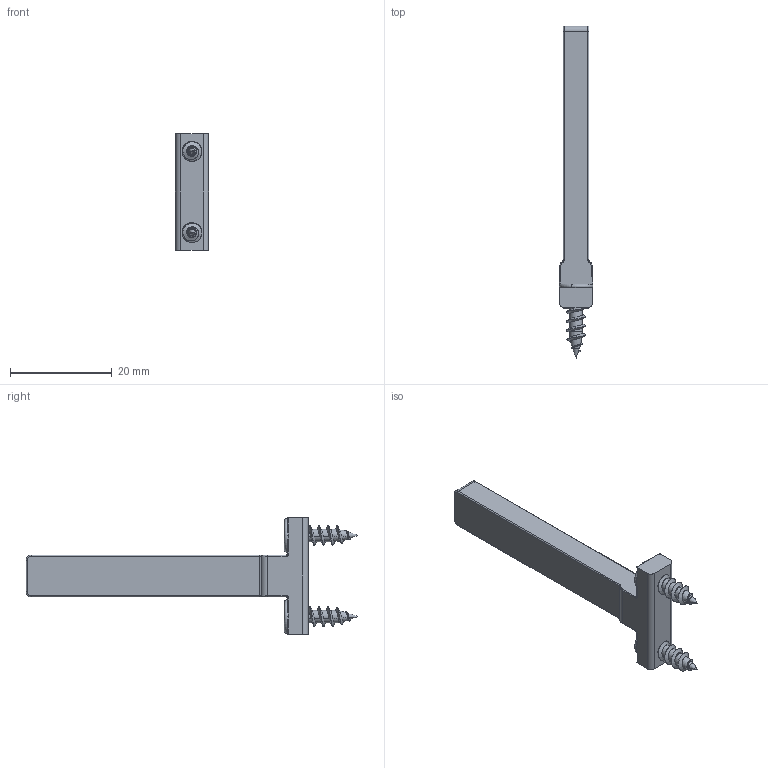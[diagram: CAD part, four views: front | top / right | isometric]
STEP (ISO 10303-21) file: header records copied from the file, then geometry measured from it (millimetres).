
FILE_DESCRIPTION (( 'STEP AP203' ), '1' );
FILE_NAME ('HT10011.STEP', '2021-03-30T07:20:00', ( 'Users' ), ( 'Microsoft' ), 'SwSTEP 2.0', 'SolidWorks 2018', '' );
FILE_SCHEMA (( 'CONFIG_CONTROL_DESIGN' ));
Length unit declared in the file: millimetre
Products named in the file (1): HT10011
Bounding box: 6.6 x 65.33 x 23 mm (x, y, z)
Volume: 2920.5 mm3; surface area: 2101.9 mm2
Topology: 1 solids, 1 shells, 161 faces, 428 edges, 269 vertices
Faces by surface type: cylinder 53, plane 47, bspline 29, torus 28, cone 4
Entity records: 8304 total; most frequent: CARTESIAN_POINT 4525, ORIENTED_EDGE 848, DIRECTION 678, EDGE_CURVE 424, VERTEX_POINT 269, AXIS2_PLACEMENT_3D 245, LINE 188, VECTOR 188
